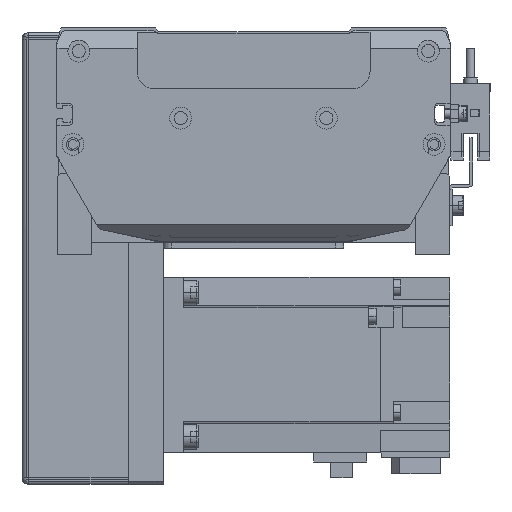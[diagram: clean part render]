
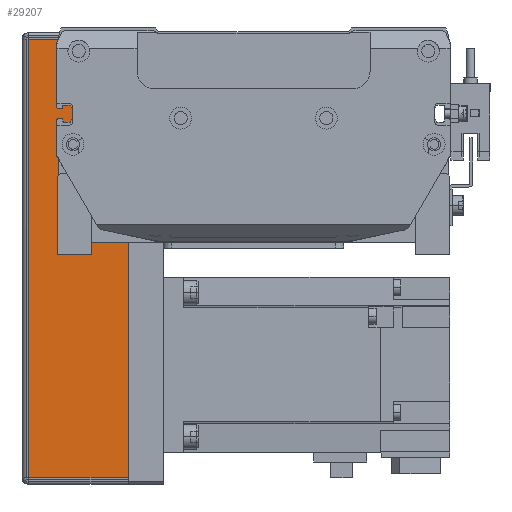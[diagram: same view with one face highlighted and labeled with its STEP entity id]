
A CAD part, front view. The second image highlights one B-rep face of the part: STEP entity #29207.
In plain terms, the highlighted planar face has unit normal (0, -1, 0) as drawn and (0, 1, 0) by its records, which use the part's own axes.
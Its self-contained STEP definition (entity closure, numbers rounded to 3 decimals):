
#931 = DIRECTION ( 'NONE',  ( 0., 0., -1. ) ) ;
#1356 = DIRECTION ( 'NONE',  ( 0., -1., 0. ) ) ;
#1639 = EDGE_CURVE ( 'NONE', #13154, #39053, #4547, .T. ) ;
#2243 = VERTEX_POINT ( 'NONE', #16438 ) ;
#4547 = LINE ( 'NONE', #39110, #20834 ) ;
#6514 = DIRECTION ( 'NONE',  ( -1., 0., 0. ) ) ;
#7198 = DIRECTION ( 'NONE',  ( 0., 0., -1. ) ) ;
#8713 = DIRECTION ( 'NONE',  ( 0., 0., -1. ) ) ;
#10677 = CARTESIAN_POINT ( 'NONE',  ( -34.793, 37., 0. ) ) ;
#10778 = VECTOR ( 'NONE', #20445, 1000. ) ;
#13154 = VERTEX_POINT ( 'NONE', #14725 ) ;
#14725 = CARTESIAN_POINT ( 'NONE',  ( 115.793, 37., 34.263 ) ) ;
#16438 = CARTESIAN_POINT ( 'NONE',  ( 115.793, 37., 0. ) ) ;
#17320 = CARTESIAN_POINT ( 'NONE',  ( -162.166, 37., 36.5 ) ) ;
#17463 = CARTESIAN_POINT ( 'NONE',  ( -162.166, 37., 0. ) ) ;
#17606 = PLANE ( 'NONE',  #19354 ) ;
#19354 = AXIS2_PLACEMENT_3D ( 'NONE', #17320, #1356, #931 ) ;
#20445 = DIRECTION ( 'NONE',  ( -1., 0., 0. ) ) ;
#20834 = VECTOR ( 'NONE', #6514, 1000. ) ;
#20949 = LINE ( 'NONE', #26569, #30072 ) ;
#21548 = EDGE_CURVE ( 'NONE', #13154, #2243, #40490, .T. ) ;
#24587 = LINE ( 'NONE', #17463, #10778 ) ;
#26331 = ORIENTED_EDGE ( 'NONE', *, *, #29237, .T. ) ;
#26569 = CARTESIAN_POINT ( 'NONE',  ( -34.793, 37., 35. ) ) ;
#26790 = VECTOR ( 'NONE', #8713, 1000. ) ;
#27221 = VERTEX_POINT ( 'NONE', #10677 ) ;
#29207 = ADVANCED_FACE ( 'NONE', ( #40369 ), #17606, .F. ) ;
#29237 = EDGE_CURVE ( 'NONE', #2243, #27221, #24587, .T. ) ;
#30072 = VECTOR ( 'NONE', #7198, 1000. ) ;
#31849 = EDGE_LOOP ( 'NONE', ( #40859, #37493, #32457, #26331 ) ) ;
#32457 = ORIENTED_EDGE ( 'NONE', *, *, #21548, .T. ) ;
#36083 = EDGE_CURVE ( 'NONE', #39053, #27221, #20949, .T. ) ;
#37493 = ORIENTED_EDGE ( 'NONE', *, *, #1639, .F. ) ;
#37889 = CARTESIAN_POINT ( 'NONE',  ( 115.793, 37., 36.5 ) ) ;
#39053 = VERTEX_POINT ( 'NONE', #41731 ) ;
#39110 = CARTESIAN_POINT ( 'NONE',  ( -37., 37., 34.263 ) ) ;
#40369 = FACE_OUTER_BOUND ( 'NONE', #31849, .T. ) ;
#40490 = LINE ( 'NONE', #37889, #26790 ) ;
#40859 = ORIENTED_EDGE ( 'NONE', *, *, #36083, .F. ) ;
#41731 = CARTESIAN_POINT ( 'NONE',  ( -34.793, 37., 34.263 ) ) ;
